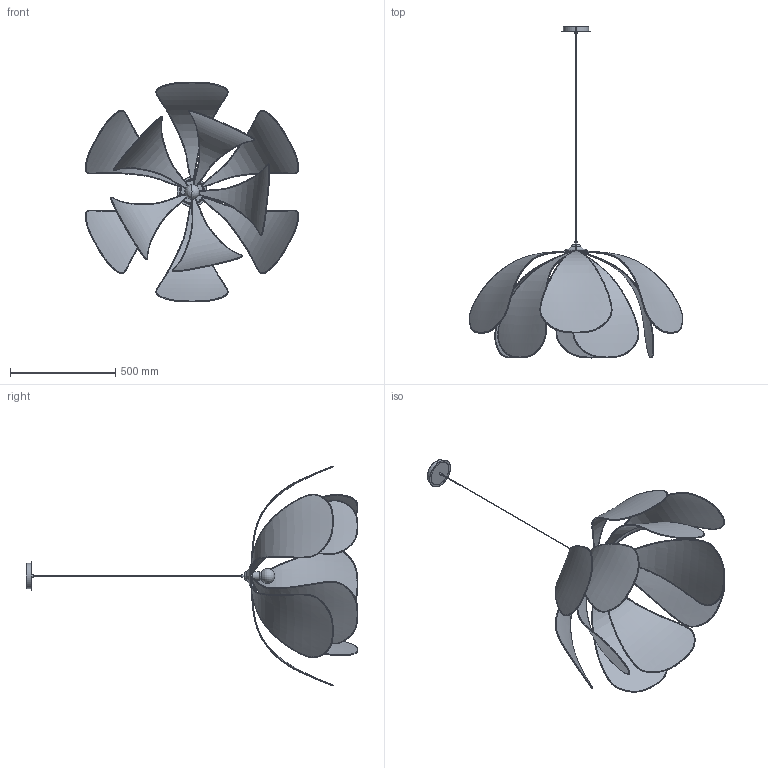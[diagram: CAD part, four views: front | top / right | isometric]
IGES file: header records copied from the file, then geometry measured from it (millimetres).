
Start section: SolidWorks IGES file using analytic representation for surfaces
Global section: file name: F:\燠隴矨\3D\2024-4堎\Rattan Petal Pendant Lamp-D100.IGS; native system: SolidWorks 2022; preprocessor: SolidWorks 2022; author: MyPC; date: 240422.142511; units: millimetre
Bounding box: 1014.79 x 1577.41 x 1044.96 mm (x, y, z)
Surface area: 2969218.2 mm2 (no closed solid volume)
Topology: 0 solids, 0 shells, 380 faces, 6925 edges, 6923 vertices
Faces by surface type: bspline 282, revolution 98
